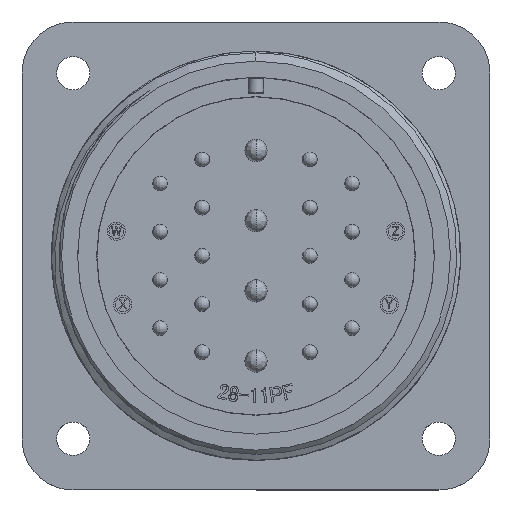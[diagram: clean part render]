
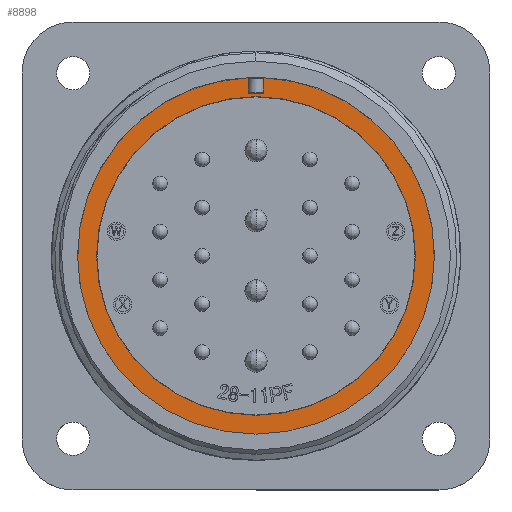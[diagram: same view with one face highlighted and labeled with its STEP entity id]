
A CAD part, top view. The second image highlights one B-rep face of the part: STEP entity #8898.
In plain terms, the highlighted planar face has unit normal (0, 0, 1).
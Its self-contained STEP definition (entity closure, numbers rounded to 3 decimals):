
#47 = DIRECTION ( 'NONE',  ( 0., 0., -1. ) ) ;
#130 = CARTESIAN_POINT ( 'NONE',  ( 0., -17.3, -19.18 ) ) ;
#296 = AXIS2_PLACEMENT_3D ( 'NONE', #11962, #34057, #15109 ) ;
#1570 = FACE_OUTER_BOUND ( 'NONE', #12592, .T. ) ;
#2178 = CARTESIAN_POINT ( 'NONE',  ( 0.925, 19.253, -19.18 ) ) ;
#2453 = DIRECTION ( 'NONE',  ( 0., 0., -1. ) ) ;
#2612 = DIRECTION ( 'NONE',  ( 0., -1., 0. ) ) ;
#2684 = VERTEX_POINT ( 'NONE', #24038 ) ;
#2734 = DIRECTION ( 'NONE',  ( 0., 1., 0. ) ) ;
#2829 = CIRCLE ( 'NONE', #6532, 0.1 ) ;
#3026 = LINE ( 'NONE', #40571, #10436 ) ;
#3262 = VERTEX_POINT ( 'NONE', #15424 ) ;
#3415 = DIRECTION ( 'NONE',  ( 0., 0., 1. ) ) ;
#3946 = ORIENTED_EDGE ( 'NONE', *, *, #31882, .T. ) ;
#4342 = EDGE_CURVE ( 'NONE', #2684, #3262, #32068, .T. ) ;
#5299 = VECTOR ( 'NONE', #16306, 1000. ) ;
#5394 = DIRECTION ( 'NONE',  ( 0., -1., 0. ) ) ;
#5725 = CARTESIAN_POINT ( 'NONE',  ( -0.825, 19.253, -19.18 ) ) ;
#6532 = AXIS2_PLACEMENT_3D ( 'NONE', #40688, #21738, #2734 ) ;
#6685 = ORIENTED_EDGE ( 'NONE', *, *, #17175, .T. ) ;
#6945 = DIRECTION ( 'NONE',  ( 0., 0., 1. ) ) ;
#7532 = CIRCLE ( 'NONE', #18892, 0.1 ) ;
#7656 = ORIENTED_EDGE ( 'NONE', *, *, #21096, .T. ) ;
#8223 = CIRCLE ( 'NONE', #22482, 17.3 ) ;
#8898 = ADVANCED_FACE ( 'NONE', ( #1570, #31316 ), #19734, .T. ) ;
#10436 = VECTOR ( 'NONE', #2612, 1000. ) ;
#10792 = CIRCLE ( 'NONE', #28650, 0.1 ) ;
#11962 = CARTESIAN_POINT ( 'NONE',  ( 0.725, 17.75, -19.18 ) ) ;
#12557 = VERTEX_POINT ( 'NONE', #34148 ) ;
#12592 = EDGE_LOOP ( 'NONE', ( #21560, #3946, #35840, #32669, #36419, #7656, #40456, #29735, #28019 ) ) ;
#12656 = CARTESIAN_POINT ( 'NONE',  ( 0.825, 17.75, -19.18 ) ) ;
#12743 = EDGE_CURVE ( 'NONE', #3262, #30980, #7532, .T. ) ;
#13646 = ORIENTED_EDGE ( 'NONE', *, *, #32986, .T. ) ;
#13708 = LINE ( 'NONE', #28794, #5299 ) ;
#14452 = VERTEX_POINT ( 'NONE', #19497 ) ;
#15022 = CARTESIAN_POINT ( 'NONE',  ( -0.93, 19.353, -19.18 ) ) ;
#15109 = DIRECTION ( 'NONE',  ( 0., 1., 0. ) ) ;
#15424 = CARTESIAN_POINT ( 'NONE',  ( 0.93, 19.353, -19.18 ) ) ;
#16286 = VERTEX_POINT ( 'NONE', #23268 ) ;
#16306 = DIRECTION ( 'NONE',  ( 0., 1., 0. ) ) ;
#16527 = EDGE_CURVE ( 'NONE', #12557, #14452, #2829, .T. ) ;
#16702 = EDGE_CURVE ( 'NONE', #12557, #20481, #13708, .T. ) ;
#16916 = DIRECTION ( 'NONE',  ( 0., -1., 0. ) ) ;
#17175 = EDGE_CURVE ( 'NONE', #30384, #16286, #8223, .T. ) ;
#18046 = DIRECTION ( 'NONE',  ( 0., 0., 1. ) ) ;
#18892 = AXIS2_PLACEMENT_3D ( 'NONE', #2178, #24345, #5394 ) ;
#19028 = CARTESIAN_POINT ( 'NONE',  ( 0., 0., -19.18 ) ) ;
#19497 = CARTESIAN_POINT ( 'NONE',  ( -0.725, 17.65, -19.18 ) ) ;
#19734 = PLANE ( 'NONE',  #24612 ) ;
#19976 = CARTESIAN_POINT ( 'NONE',  ( 0., 17.3, -19.18 ) ) ;
#20177 = EDGE_LOOP ( 'NONE', ( #6685, #13646 ) ) ;
#20196 = DIRECTION ( 'NONE',  ( -1., 0., 0. ) ) ;
#20481 = VERTEX_POINT ( 'NONE', #5725 ) ;
#21096 = EDGE_CURVE ( 'NONE', #30980, #34123, #3026, .T. ) ;
#21433 = CARTESIAN_POINT ( 'NONE',  ( 0., 0., -19.18 ) ) ;
#21560 = ORIENTED_EDGE ( 'NONE', *, *, #16702, .T. ) ;
#21738 = DIRECTION ( 'NONE',  ( 0., 0., 1. ) ) ;
#22231 = DIRECTION ( 'NONE',  ( 0., -1., 0. ) ) ;
#22372 = CARTESIAN_POINT ( 'NONE',  ( 0., 0., -19.18 ) ) ;
#22482 = AXIS2_PLACEMENT_3D ( 'NONE', #19028, #47, #22231 ) ;
#23268 = CARTESIAN_POINT ( 'NONE',  ( 0., 17.3, -19.18 ) ) ;
#24038 = CARTESIAN_POINT ( 'NONE',  ( 0., -19.375, -19.18 ) ) ;
#24240 = CIRCLE ( 'NONE', #30174, 19.375 ) ;
#24345 = DIRECTION ( 'NONE',  ( 0., 0., 1. ) ) ;
#24612 = AXIS2_PLACEMENT_3D ( 'NONE', #19976, #35890, #16916 ) ;
#24616 = DIRECTION ( 'NONE',  ( 0., -1., 0. ) ) ;
#24857 = EDGE_CURVE ( 'NONE', #35001, #14452, #30074, .T. ) ;
#25109 = CIRCLE ( 'NONE', #296, 0.1 ) ;
#25563 = DIRECTION ( 'NONE',  ( 0., -1., 0. ) ) ;
#25908 = CARTESIAN_POINT ( 'NONE',  ( -0.925, 19.253, -19.18 ) ) ;
#26935 = CARTESIAN_POINT ( 'NONE',  ( 0.825, 19.253, -19.18 ) ) ;
#27594 = AXIS2_PLACEMENT_3D ( 'NONE', #21433, #2453, #24616 ) ;
#28019 = ORIENTED_EDGE ( 'NONE', *, *, #16527, .F. ) ;
#28650 = AXIS2_PLACEMENT_3D ( 'NONE', #25908, #6945, #29119 ) ;
#28794 = CARTESIAN_POINT ( 'NONE',  ( -0.825, 19.357, -19.18 ) ) ;
#29119 = DIRECTION ( 'NONE',  ( 0., -1., 0. ) ) ;
#29122 = VECTOR ( 'NONE', #20196, 1000. ) ;
#29735 = ORIENTED_EDGE ( 'NONE', *, *, #24857, .T. ) ;
#30074 = LINE ( 'NONE', #39138, #29122 ) ;
#30174 = AXIS2_PLACEMENT_3D ( 'NONE', #22372, #3415, #25563 ) ;
#30384 = VERTEX_POINT ( 'NONE', #130 ) ;
#30980 = VERTEX_POINT ( 'NONE', #26935 ) ;
#31229 = EDGE_CURVE ( 'NONE', #39470, #2684, #24240, .T. ) ;
#31316 = FACE_BOUND ( 'NONE', #20177, .T. ) ;
#31882 = EDGE_CURVE ( 'NONE', #20481, #39470, #10792, .T. ) ;
#32068 = CIRCLE ( 'NONE', #34287, 19.375 ) ;
#32669 = ORIENTED_EDGE ( 'NONE', *, *, #4342, .T. ) ;
#32986 = EDGE_CURVE ( 'NONE', #16286, #30384, #38962, .T. ) ;
#34057 = DIRECTION ( 'NONE',  ( 0., 0., 1. ) ) ;
#34123 = VERTEX_POINT ( 'NONE', #12656 ) ;
#34148 = CARTESIAN_POINT ( 'NONE',  ( -0.825, 17.75, -19.18 ) ) ;
#34287 = AXIS2_PLACEMENT_3D ( 'NONE', #37023, #18046, #40209 ) ;
#35001 = VERTEX_POINT ( 'NONE', #37210 ) ;
#35840 = ORIENTED_EDGE ( 'NONE', *, *, #31229, .T. ) ;
#35890 = DIRECTION ( 'NONE',  ( 0., 0., 1. ) ) ;
#36419 = ORIENTED_EDGE ( 'NONE', *, *, #12743, .T. ) ;
#37023 = CARTESIAN_POINT ( 'NONE',  ( 0., 0., -19.18 ) ) ;
#37210 = CARTESIAN_POINT ( 'NONE',  ( 0.725, 17.65, -19.18 ) ) ;
#38962 = CIRCLE ( 'NONE', #27594, 17.3 ) ;
#39138 = CARTESIAN_POINT ( 'NONE',  ( -0.825, 17.65, -19.18 ) ) ;
#39470 = VERTEX_POINT ( 'NONE', #15022 ) ;
#40026 = EDGE_CURVE ( 'NONE', #35001, #34123, #25109, .T. ) ;
#40209 = DIRECTION ( 'NONE',  ( 0., -1., 0. ) ) ;
#40456 = ORIENTED_EDGE ( 'NONE', *, *, #40026, .F. ) ;
#40571 = CARTESIAN_POINT ( 'NONE',  ( 0.825, 17.65, -19.18 ) ) ;
#40688 = CARTESIAN_POINT ( 'NONE',  ( -0.725, 17.75, -19.18 ) ) ;
